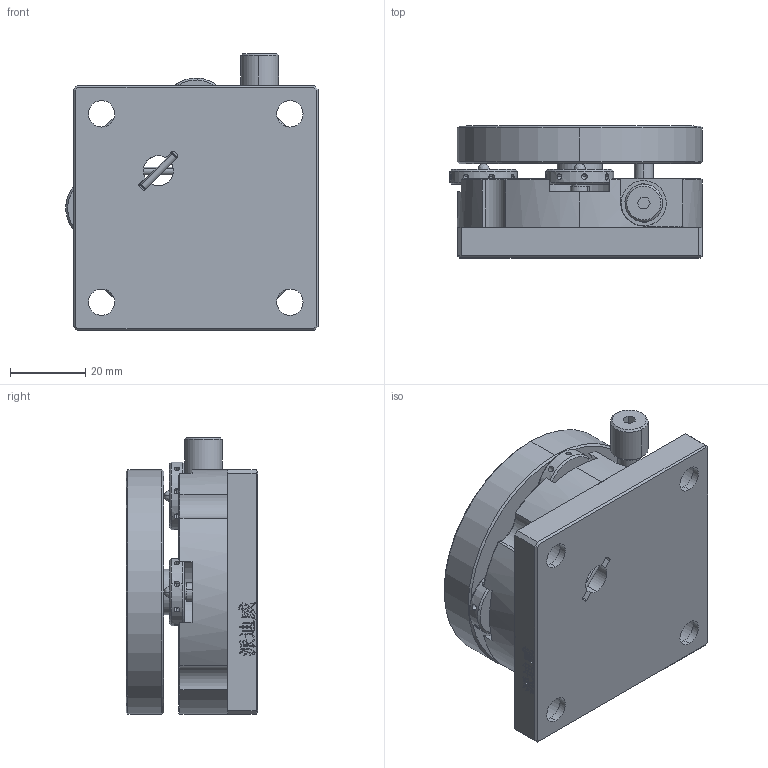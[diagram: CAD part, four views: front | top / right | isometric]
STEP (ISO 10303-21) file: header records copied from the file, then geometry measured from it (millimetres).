
FILE_DESCRIPTION (( 'STEP AP214' ), '1' );
FILE_NAME ('PT-SR65.STEP', '2023-05-07T06:12:00', ( '' ), ( '' ), 'SwSTEP 2.0', 'SolidWorks 2017', '' );
FILE_SCHEMA (( 'AUTOMOTIVE_DESIGN' ));
Length unit declared in the file: millimetre
Products named in the file (2): PT-SR65
Bounding box: 66.98 x 35 x 73.5 mm (x, y, z)
Volume: 101600.3 mm3; surface area: 34015.7 mm2
Topology: 19 solids, 19 shells, 689 faces, 1742 edges, 1077 vertices
Faces by surface type: plane 252, cylinder 201, cone 126, bspline 110
Entity records: 32396 total; most frequent: CARTESIAN_POINT 8844, ORIENTED_EDGE 3332, DIRECTION 3080, EDGE_CURVE 1666, AXIS2_PLACEMENT_3D 1119, VERTEX_POINT 1077, VECTOR 842, LINE 842
